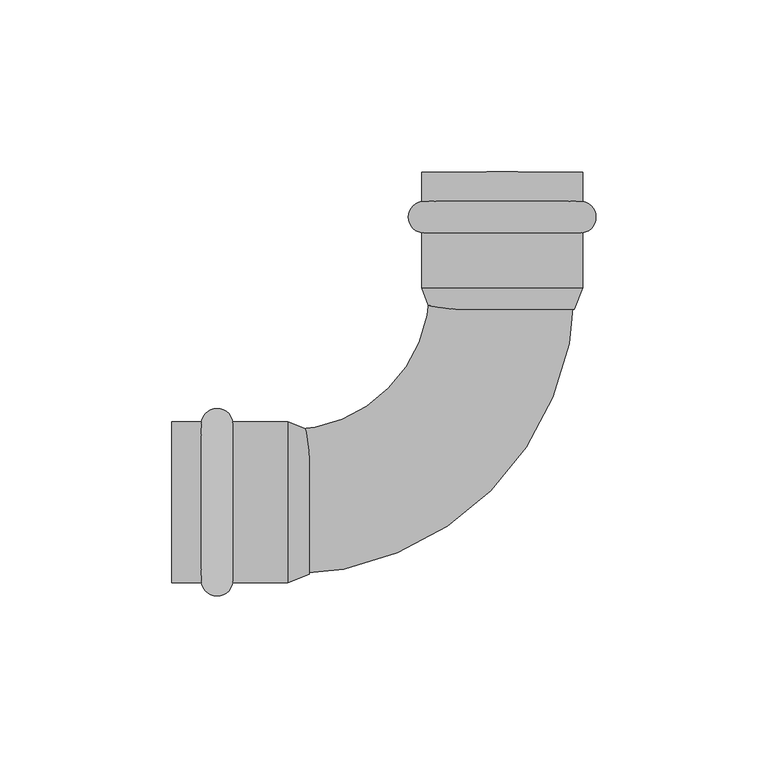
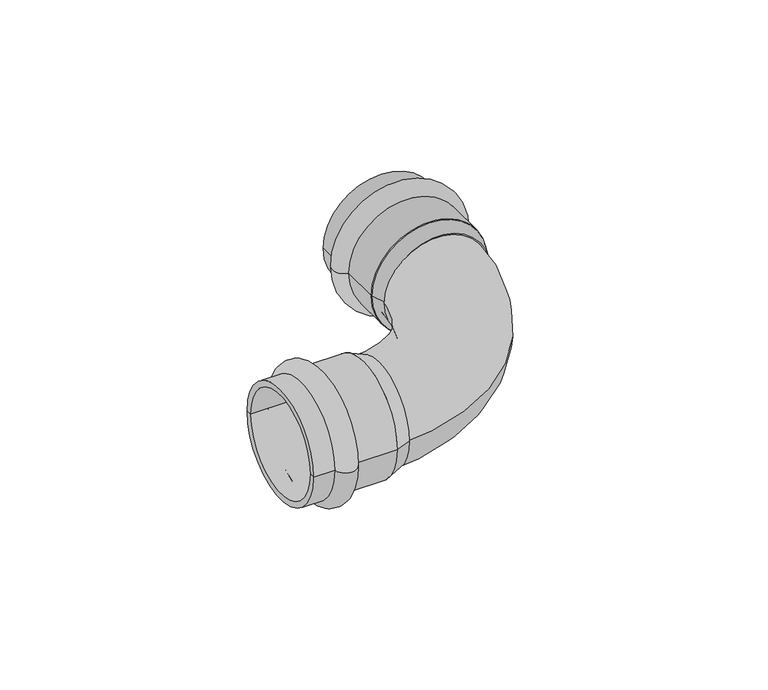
"""IFC4 building model written with IfcOpenShell, lengths in millimetres: pipe fitting geometry, VALTEC_VTi.951.I_Угольник 90° (раструб-раструб) нержавеющая сталь : VTi.951.I."""

import ifcopenshell
import ifcopenshell.guid

model = None  # the IFC model being written
_history = None  # IfcOwnerHistory: only IFC2X3 demands one
_inside = {}  # id of a spatial element -> (the spatial element, [elements in it])
_under = {}  # id of a project, library or spatial element -> (it, [spatial elements below it])
_declared = {}  # id of a project -> (the project, [libraries it declares])
_typed = {}  # id of a type object -> (the type object, [elements of that type])
_made_of = {}  # id of a material, layer set ... -> (it, [elements and type objects made of it])


def new_model(schema):
    """Start an empty IFC model of exactly this schema.

    Asked for "IFC4X3", IfcOpenShell would pick the latest addendum, in which some entities
    have other attributes; the version numbers below select the first issue.
    IFC2X3 requires an IfcOwnerHistory on every rooted entity: one is made here for all.
    """
    global model, _history
    if schema == "IFC4X3":
        model = ifcopenshell.file(schema_version=(4, 3, 0, 0))
    else:
        model = ifcopenshell.file(schema=schema)
    _inside.clear()
    _under.clear()
    _declared.clear()
    _typed.clear()
    _made_of.clear()
    _history = None
    if model.schema == "IFC2X3":
        org = make("IfcOrganization", Name="unknown")
        user = make(
            "IfcPersonAndOrganization",
            ThePerson=make("IfcPerson", FamilyName="unknown"),
            TheOrganization=org,
        )
        app = make(
            "IfcApplication",
            ApplicationDeveloper=org,
            Version="unknown",
            ApplicationFullName="unknown",
            ApplicationIdentifier="unknown",
        )
        _history = make(
            "IfcOwnerHistory",
            OwningUser=user,
            OwningApplication=app,
            ChangeAction="ADDED",
            CreationDate=0,
        )
    return model


def make(cls, **values):
    """One entity of the class cls with the attributes given. An attribute that is None is left unset."""
    return model.create_entity(
        cls, **{name: value for name, value in values.items() if value is not None}
    )


def rooted(cls, **values):
    """An entity with a GlobalId (a new one), such as an element, a storey or a relation."""
    return make(cls, GlobalId=ifcopenshell.guid.new(), OwnerHistory=_history, **values)


def si_unit(unit_type, name, prefix=None):
    """IfcSIUnit, for example si_unit("LENGTHUNIT", "METRE", prefix="MILLI")."""
    return make("IfcSIUnit", UnitType=unit_type, Prefix=prefix, Name=name)


def assignment(units):
    """IfcUnitAssignment: the units of a project."""
    return None if units is None else make("IfcUnitAssignment", Units=units)


def point(xyz):
    """IfcCartesianPoint."""
    return None if xyz is None else make("IfcCartesianPoint", Coordinates=xyz)


def direction(xyz):
    """IfcDirection."""
    return None if xyz is None else make("IfcDirection", DirectionRatios=xyz)


def frame(location, z_axis=None, x_axis=None):
    """IfcAxis2Placement3D, a coordinate frame: its origin and axes. An axis left out is left unset."""
    return make(
        "IfcAxis2Placement3D",
        Location=point(location),
        Axis=direction(z_axis),
        RefDirection=direction(x_axis),
    )


def origin():
    """The frame at (0, 0, 0) with its axes left unset."""
    return frame((0.0, 0.0, 0.0))


def place(relative_to, where):
    """IfcLocalPlacement: puts the frame where relative to a parent placement (None: the world)."""
    return make(
        "IfcLocalPlacement", PlacementRelTo=relative_to, RelativePlacement=where
    )


def context(
    kind, dimensions, precision=None, world=None, true_north=None, identifier=None
):
    """IfcGeometricRepresentationContext, for example the 3D "Model" context."""
    return make(
        "IfcGeometricRepresentationContext",
        ContextIdentifier=identifier,
        ContextType=kind,
        CoordinateSpaceDimension=dimensions,
        Precision=precision,
        WorldCoordinateSystem=world,
        TrueNorth=true_north,
    )


def project(units=None, contexts=None):
    """IfcProject with its units and contexts."""
    return rooted(
        "IfcProject",
        Name="project",
        RepresentationContexts=contexts,
        UnitsInContext=assignment(units),
    )


def spatial(cls, under=None, at=None, **own):
    """A site, building, storey or space (cls), placed at a placement, below another one or the project."""
    s = rooted(cls, ObjectPlacement=at, **own)
    if under is not None:
        _under.setdefault(under.id(), (under, []))[1].append(s)
    return s


def polyline(points):
    """IfcPolyline through the points."""
    return make("IfcPolyline", Points=[point(p) for p in points])


def circle_curve(where, radius):
    """IfcCircle in the frame where."""
    return make("IfcCircle", Position=where, Radius=radius)


def ellipse_curve(where, semi_axis1, semi_axis2):
    """IfcEllipse in the frame where."""
    return make(
        "IfcEllipse", Position=where, SemiAxis1=semi_axis1, SemiAxis2=semi_axis2
    )


def trimmed(basis, trim1, trim2, sense, master):
    """IfcTrimmedCurve: the piece of a basis curve between two trims."""
    return make(
        "IfcTrimmedCurve",
        BasisCurve=basis,
        Trim1=trim1,
        Trim2=trim2,
        SenseAgreement=sense,
        MasterRepresentation=master,
    )


def shape(context_of_items, identifier, shape_type, items):
    """IfcShapeRepresentation: the items that make up one representation, for example the "Body"."""
    return make(
        "IfcShapeRepresentation",
        ContextOfItems=context_of_items,
        RepresentationIdentifier=identifier,
        RepresentationType=shape_type,
        Items=items,
    )


def source(mapping_origin, context_of_items, identifier, shape_type, items):
    """IfcRepresentationMap: a shape defined once, which mapped items show again and again."""
    return make(
        "IfcRepresentationMap",
        MappingOrigin=mapping_origin,
        MappedRepresentation=shape(context_of_items, identifier, shape_type, items),
    )


def transform(
    local_origin,
    x_axis=None,
    y_axis=None,
    z_axis=None,
    scale=None,
    scale2=None,
    scale3=None,
    uniform=True,
):
    """IfcCartesianTransformationOperator3D, or its non-uniform kind. x_axis, y_axis, z_axis: its Axis1, 2, 3."""
    if uniform:
        return make(
            "IfcCartesianTransformationOperator3D",
            Axis1=direction(x_axis),
            Axis2=direction(y_axis),
            LocalOrigin=point(local_origin),
            Scale=scale,
            Axis3=direction(z_axis),
        )
    return make(
        "IfcCartesianTransformationOperator3DnonUniform",
        Axis1=direction(x_axis),
        Axis2=direction(y_axis),
        LocalOrigin=point(local_origin),
        Scale=scale,
        Axis3=direction(z_axis),
        Scale2=scale2,
        Scale3=scale3,
    )


def mapped(mapping_source, mapping_target):
    """IfcMappedItem: shows the shape of a source again, moved by a transform."""
    return make(
        "IfcMappedItem", MappingSource=mapping_source, MappingTarget=mapping_target
    )


def made_of(thing, what):
    """Note that an element or type object is made of a material, layer set ...; save() writes the relation."""
    if what is not None:
        _made_of.setdefault(what.id(), (what, []))[1].append(thing)
    return thing


def element(
    cls,
    number,
    at=None,
    inside=None,
    cuts=None,
    type_object=None,
    material=None,
    context=None,
    identifier="Body",
    shape_type=None,
    held_by="IfcProductDefinitionShape",
    body=None,
    shapes=None,
    **own,
):
    """One element of the class cls, such as IfcWall. Its Tag is "e" and its number.

    at: its placement. inside: the storey or other place that contains it. cuts: it is an
    opening in that element (IfcRelVoidsElement). A single representation is given by context,
    identifier, shape_type and body (its items); several are given by shapes. held_by: the class
    of the entity that holds the representations. save() writes the other relations.
    """
    e = rooted(cls, Tag="e%d" % number, ObjectPlacement=at, **own)
    if body is not None:
        shapes = [shape(context, identifier, shape_type, body)]
    if shapes is not None:
        e.Representation = make(held_by, Representations=shapes)
    if inside is not None:
        _inside.setdefault(inside.id(), (inside, []))[1].append(e)
    if cuts is not None:
        rooted(
            "IfcRelVoidsElement", RelatingBuildingElement=cuts, RelatedOpeningElement=e
        )
    if type_object is not None:
        _typed.setdefault(type_object.id(), (type_object, []))[1].append(e)
    return made_of(e, material)


def aggregate(whole, parts):
    """IfcRelAggregates: a whole, such as a stair, and the parts it consists of."""
    return rooted("IfcRelAggregates", RelatingObject=whole, RelatedObjects=parts)


def save(model, path):
    """Write the relations noted so far, then the file.

    IfcRelAggregates (storeys below a building ...), IfcRelContainedInSpatialStructure (elements
    in a storey), IfcRelDefinesByType, IfcRelAssociatesMaterial and IfcRelDeclares: one each for
    every whole, place, type object, material and project.
    """
    for whole, parts in _under.values():
        aggregate(whole, parts)
    for where, things in _inside.values():
        rooted(
            "IfcRelContainedInSpatialStructure",
            RelatedElements=things,
            RelatingStructure=where,
        )
    for kind, things in _typed.values():
        rooted("IfcRelDefinesByType", RelatedObjects=things, RelatingType=kind)
    for what, things in _made_of.values():
        rooted("IfcRelAssociatesMaterial", RelatedObjects=things, RelatingMaterial=what)
    for by, libraries in _declared.values():
        rooted("IfcRelDeclares", RelatingContext=by, RelatedDefinitions=libraries)
    model.write(path)


def plane_surface(at):
    """IfcPlane: the flat surface through the origin of the frame at, square to its z axis."""
    return make("IfcPlane", Position=at)


def cylinder_surface(at, radius):
    """IfcCylindricalSurface: all points at the distance radius from the z axis of the frame at."""
    return make("IfcCylindricalSurface", Position=at, Radius=radius)


def revolved_surface(curve, axis_point, axis_direction):
    """IfcSurfaceOfRevolution: the curve turned about the line through axis_point along axis_direction."""
    return make(
        "IfcSurfaceOfRevolution",
        SweptCurve=make("IfcArbitraryOpenProfileDef", ProfileType="CURVE", Curve=curve),
        AxisPosition=make("IfcAxis1Placement", Location=point(axis_point), Axis=direction(axis_direction)),
    )


def advanced_brep(points, edges, surfaces, faces):
    """IfcAdvancedBrep: a solid bounded by faces that lie on surfaces and meet in shared edges.

    An edge is (start, end): straight between two places in points (the first is 0);
    or (start, end, curve); or (start, end, curve, False) where it runs against its curve.
    A face is (place in surfaces, loops), or (place, loops, False) where it looks against
    its surface's normal. A loop lists edges by number (the first is 1), with a minus sign
    where the edge is run from its end to its start. The first loop is the outer one.
    """
    corners = [point(p) for p in points]
    vertices = [make("IfcVertexPoint", VertexGeometry=c) for c in corners]
    made = []
    for start, end, *more in edges:
        made.append(
            make(
                "IfcEdgeCurve",
                EdgeStart=vertices[start],
                EdgeEnd=vertices[end],
                EdgeGeometry=more[0] if more else make("IfcPolyline", Points=[corners[start], corners[end]]),
                SameSense=more[1] if len(more) > 1 else True,
            )
        )
    hull = []
    for where, loops, *sense in faces:
        bounds = []
        for j, loop in enumerate(loops):
            ring = [make("IfcOrientedEdge", EdgeElement=made[abs(k) - 1], Orientation=k > 0) for k in loop]
            bounds.append(
                make(
                    "IfcFaceOuterBound" if j == 0 else "IfcFaceBound",
                    Bound=make("IfcEdgeLoop", EdgeList=ring),
                    Orientation=True,
                )
            )
        hull.append(make("IfcAdvancedFace", Bounds=bounds, FaceSurface=surfaces[where], SameSense=sense[0] if sense else True))
    return make("IfcAdvancedBrep", Outer=make("IfcClosedShell", CfsFaces=hull))


def pipe_fitting_aa09dfc6(model_context):
    return source(origin(), model_context, "Body", "AdvancedBrep", [
        advanced_brep(
        [(-87.4464272, -23.35, 0.0), (-87.4464272, 23.35, 0.0), (-78.3535728, 23.35, 0.0), (-78.3535728, -23.35, 0.0), (-96.0, -23.35, 0.0), (-96.0, 23.35, 0.0), (-96.0, -21.0, 0.0), (-96.0, 21.0, 0.0), (-62.4, -21.0, 0.0), (-62.4, 21.0, 0.0), (-62.4, -23.35, 0.0), (-62.4, 23.35, 0.0)],
        [
            (0, 1, circle_curve(frame((-87.4464272, 0.0, 0.0), z_axis=(1.0, 0.0, 0.0), x_axis=(0.0, 1.0, 0.0)), 23.35)),
            (1, 2, circle_curve(frame((-82.9, 22.65, 0.0), z_axis=(0.0, 0.0, -1.0), x_axis=(1.0, 0.0, 0.0)), 4.6)),
            (2, 3, circle_curve(frame((-78.3535728, 0.0, 0.0), z_axis=(-1.0, 0.0, 0.0), x_axis=(0.0, 1.0, 0.0)), 23.35)),
            (3, 0, circle_curve(frame((-82.9, -22.65, 0.0), z_axis=(0.0, 0.0, -1.0), x_axis=(1.0, 0.0, 0.0)), 4.6)),
            (1, 0, circle_curve(frame((-87.4464272, 0.0, 0.0), z_axis=(1.0, 0.0, 0.0), x_axis=(0.0, 1.0, 0.0)), 23.35)),
            (3, 2, circle_curve(frame((-78.3535728, 0.0, 0.0), z_axis=(-1.0, 0.0, 0.0), x_axis=(0.0, 1.0, 0.0)), 23.35)),
            (4, 5, circle_curve(frame((-96.0, 0.0, 0.0), z_axis=(1.0, 0.0, 0.0), x_axis=(0.0, 1.0, 0.0)), 23.35)),
            (5, 1),
            (0, 4),
            (5, 4, circle_curve(frame((-96.0, 0.0, 0.0), z_axis=(1.0, 0.0, 0.0), x_axis=(0.0, 1.0, 0.0)), 23.35)),
            (6, 7, circle_curve(frame((-96.0, 0.0, 0.0), z_axis=(1.0, 0.0, 0.0), x_axis=(0.0, 1.0, 0.0)), 21.0)),
            (7, 5),
            (4, 6),
            (7, 6, circle_curve(frame((-96.0, 0.0, 0.0), z_axis=(1.0, 0.0, 0.0), x_axis=(0.0, 1.0, 0.0)), 21.0)),
            (8, 9, circle_curve(frame((-62.4, 0.0, 0.0), z_axis=(1.0, 0.0, 0.0), x_axis=(0.0, 1.0, 0.0)), 21.0)),
            (9, 7),
            (6, 8),
            (9, 8, circle_curve(frame((-62.4, 0.0, 0.0), z_axis=(1.0, 0.0, 0.0), x_axis=(0.0, 1.0, 0.0)), 21.0)),
            (10, 11, circle_curve(frame((-62.4, 0.0, 0.0), z_axis=(1.0, 0.0, 0.0), x_axis=(0.0, 1.0, 0.0)), 23.35)),
            (11, 9),
            (8, 10),
            (11, 10, circle_curve(frame((-62.4, 0.0, 0.0), z_axis=(1.0, 0.0, 0.0), x_axis=(0.0, 1.0, 0.0)), 23.35)),
            (2, 11),
            (10, 3),
        ],
        [
            revolved_surface(trimmed(ellipse_curve(frame((-82.9, 22.65, 0.0), z_axis=(0.0, 0.0, 1.0), x_axis=(1.0, 0.0, 0.0)), 4.6, 4.6), [point((-78.3535728, 23.35, 0.0))], [point((-87.4464272, 23.35, 0.0))], True, "CARTESIAN"), (-99.5364426, 0.0, 0.0), (-1.0, 0.0, 0.0)),
            cylinder_surface(frame((-99.5364426, 0.0, 0.0), z_axis=(-1.0, 0.0, 0.0), x_axis=(0.0, 1.0, 0.0)), 23.35),
            plane_surface(frame((-96.0, 0.0, 0.0), z_axis=(-1.0, 0.0, 0.0), x_axis=(0.0, 1.0, 0.0))),
            revolved_surface(polyline([(-96.0, 21.0, 0.0), (-62.4, 21.0, 0.0)]), (-99.5364426, 0.0, 0.0), (-1.0, 0.0, 0.0)),
            plane_surface(frame((-62.4, 0.0, 0.0), z_axis=(1.0, 0.0, 0.0), x_axis=(0.0, 1.0, 0.0))),
        ],
        [
            (0, [[1, 2, 3, 4]]),
            (0, [[5, -4, 6, -2]]),
            (1, [[7, 8, -1, 9]]),
            (1, [[10, -9, -5, -8]]),
            (2, [[11, 12, -7, 13]]),
            (2, [[14, -13, -10, -12]]),
            (3, [[15, 16, -11, 17]]),
            (3, [[18, -17, -14, -16]]),
            (4, [[19, 20, -15, 21]]),
            (4, [[22, -21, -18, -20]]),
            (1, [[-3, 23, -19, 24]]),
            (1, [[-6, -24, -22, -23]]),
        ],
    ),
        advanced_brep(
        [(-23.35, 87.4464272, 0.0), (23.35, 87.4464272, 0.0), (23.35, 78.3535728, 0.0), (-23.35, 78.3535728, 0.0), (-23.35, 96.0, 0.0), (23.35, 96.0, 0.0), (-21.0, 96.0, 0.0), (21.0, 96.0, 0.0), (-21.0, 62.4, 0.0), (21.0, 62.4, 0.0), (-23.35, 62.4, 0.0), (23.35, 62.4, 0.0)],
        [
            (0, 1, circle_curve(frame((0.0, 87.4464272, 0.0), z_axis=(0.0, -1.0, 0.0), x_axis=(1.0, 0.0, 0.0)), 23.35)),
            (1, 2, circle_curve(frame((22.65, 82.9, 0.0), z_axis=(0.0, 0.0, -1.0), x_axis=(0.0, -1.0, 0.0)), 4.6)),
            (2, 3, circle_curve(frame((0.0, 78.3535728, 0.0), z_axis=(0.0, 1.0, 0.0), x_axis=(1.0, 0.0, 0.0)), 23.35)),
            (3, 0, circle_curve(frame((-22.65, 82.9, 0.0), z_axis=(0.0, 0.0, -1.0), x_axis=(0.0, -1.0, 0.0)), 4.6)),
            (1, 0, circle_curve(frame((0.0, 87.4464272, 0.0), z_axis=(0.0, -1.0, 0.0), x_axis=(1.0, 0.0, 0.0)), 23.35)),
            (3, 2, circle_curve(frame((0.0, 78.3535728, 0.0), z_axis=(0.0, 1.0, 0.0), x_axis=(1.0, 0.0, 0.0)), 23.35)),
            (4, 5, circle_curve(frame((0.0, 96.0, 0.0), z_axis=(0.0, -1.0, 0.0), x_axis=(1.0, 0.0, 0.0)), 23.35)),
            (5, 1),
            (0, 4),
            (5, 4, circle_curve(frame((0.0, 96.0, 0.0), z_axis=(0.0, -1.0, 0.0), x_axis=(1.0, 0.0, 0.0)), 23.35)),
            (6, 7, circle_curve(frame((0.0, 96.0, 0.0), z_axis=(0.0, -1.0, 0.0), x_axis=(1.0, 0.0, 0.0)), 21.0)),
            (7, 5),
            (4, 6),
            (7, 6, circle_curve(frame((0.0, 96.0, 0.0), z_axis=(0.0, -1.0, 0.0), x_axis=(1.0, 0.0, 0.0)), 21.0)),
            (8, 9, circle_curve(frame((0.0, 62.4, 0.0), z_axis=(0.0, -1.0, 0.0), x_axis=(1.0, 0.0, 0.0)), 21.0)),
            (9, 7),
            (6, 8),
            (9, 8, circle_curve(frame((0.0, 62.4, 0.0), z_axis=(0.0, -1.0, 0.0), x_axis=(1.0, 0.0, 0.0)), 21.0)),
            (10, 11, circle_curve(frame((0.0, 62.4, 0.0), z_axis=(0.0, -1.0, 0.0), x_axis=(1.0, 0.0, 0.0)), 23.35)),
            (11, 9),
            (8, 10),
            (11, 10, circle_curve(frame((0.0, 62.4, 0.0), z_axis=(0.0, -1.0, 0.0), x_axis=(1.0, 0.0, 0.0)), 23.35)),
            (2, 11),
            (10, 3),
        ],
        [
            revolved_surface(trimmed(ellipse_curve(frame((22.65, 82.9, 0.0), z_axis=(0.0, 0.0, 1.0), x_axis=(0.0, -1.0, 0.0)), 4.6, 4.6), [point((23.35, 78.3535728, 0.0))], [point((23.35, 87.4464272, 0.0))], True, "CARTESIAN"), (0.0, 99.5364426, 0.0), (0.0, 1.0, 0.0)),
            cylinder_surface(frame((0.0, 99.5364426, 0.0), z_axis=(0.0, 1.0, 0.0), x_axis=(1.0, 0.0, 0.0)), 23.35),
            plane_surface(frame((0.0, 96.0, 0.0), z_axis=(0.0, 1.0, 0.0), x_axis=(1.0, 0.0, 0.0))),
            revolved_surface(polyline([(21.0, 96.0, 0.0), (21.0, 62.4, 0.0)]), (0.0, 99.5364426, 0.0), (0.0, 1.0, 0.0)),
            plane_surface(frame((0.0, 62.4, 0.0), z_axis=(0.0, -1.0, 0.0), x_axis=(1.0, 0.0, 0.0))),
        ],
        [
            (0, [[1, 2, 3, 4]]),
            (0, [[5, -4, 6, -2]]),
            (1, [[7, 8, -1, 9]]),
            (1, [[10, -9, -5, -8]]),
            (2, [[11, 12, -7, 13]]),
            (2, [[14, -13, -10, -12]]),
            (3, [[15, 16, -11, 17]]),
            (3, [[18, -17, -14, -16]]),
            (4, [[19, 20, -15, 21]]),
            (4, [[22, -21, -18, -20]]),
            (1, [[-3, 23, -19, 24]]),
            (1, [[-6, -24, -22, -23]]),
        ],
    ),
        advanced_brep(
        [(-62.4, -23.35, 0.0), (-62.4, 23.35, 0.0), (-56.16, -21.0, 0.0), (-56.16, 21.0, 0.0)],
        [
            (0, 1, circle_curve(frame((-62.4, 0.0, 0.0), z_axis=(-1.0, 0.0, 0.0), x_axis=(0.0, -1.0, 0.0)), 23.35)),
            (1, 0, circle_curve(frame((-62.4, 0.0, 0.0), z_axis=(-1.0, 0.0, 0.0), x_axis=(0.0, 1.0, 0.0)), 23.35)),
            (2, 3, circle_curve(frame((-56.16, 0.0, 0.0), z_axis=(1.0, 0.0, 0.0), x_axis=(0.0, 1.0, 0.0)), 21.0)),
            (3, 2, circle_curve(frame((-56.16, 0.0, 0.0), z_axis=(1.0, 0.0, 0.0), x_axis=(0.0, -1.0, 0.0)), 21.0)),
            (2, 0),
            (1, 3),
        ],
        [
            plane_surface(frame((-62.4, 0.0, 0.0), z_axis=(-1.0, 0.0, 0.0), x_axis=(0.0, 0.0, -1.0))),
            plane_surface(frame((-56.16, 0.0, 0.0), z_axis=(1.0, 0.0, 0.0), x_axis=(0.0, 0.0, -1.0))),
            revolved_surface(polyline([(-56.16, -20.99999999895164, 0.0), (-62.4, -23.35, 0.0)]), (-0.3982979, 0.0, 0.0), (-1.0, 0.0, 0.0)),
            revolved_surface(polyline([(-56.16, 20.99999999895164, 0.0), (-62.4, 23.35, 0.0)]), (-0.3982979, 0.0, 0.0), (-1.0, 0.0, 0.0)),
        ],
        [
            (0, [[1, 2]]),
            (1, [[3, 4]]),
            (2, [[-3, 5, -2, 6]]),
            (3, [[-4, -6, -1, -5]]),
        ],
    ),
        advanced_brep(
        [(-23.35, 62.4, 0.0), (23.35, 62.4, 0.0), (-21.0, 56.16, 0.0), (21.0, 56.16, 0.0)],
        [
            (0, 1, circle_curve(frame((0.0, 62.4, 0.0), z_axis=(0.0, 1.0, 0.0), x_axis=(-1.0, 0.0, 0.0)), 23.35)),
            (1, 0, circle_curve(frame((0.0, 62.4, 0.0), z_axis=(0.0, 1.0, 0.0), x_axis=(1.0, 0.0, 0.0)), 23.35)),
            (2, 3, circle_curve(frame((0.0, 56.16, 0.0), z_axis=(0.0, -1.0, 0.0), x_axis=(1.0, 0.0, 0.0)), 21.0)),
            (3, 2, circle_curve(frame((0.0, 56.16, 0.0), z_axis=(0.0, -1.0, 0.0), x_axis=(-1.0, 0.0, 0.0)), 21.0)),
            (2, 0),
            (1, 3),
        ],
        [
            plane_surface(frame((0.0, 62.4, 0.0), z_axis=(0.0, 1.0, 0.0), x_axis=(0.0, 0.0, -1.0))),
            plane_surface(frame((0.0, 56.16, 0.0), z_axis=(0.0, -1.0, 0.0), x_axis=(0.0, 0.0, -1.0))),
            revolved_surface(polyline([(-20.99999999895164, 56.16, 0.0), (-23.35, 62.4, 0.0)]), (0.0, 0.3982979, 0.0), (0.0, 1.0, 0.0)),
            revolved_surface(polyline([(20.99999999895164, 56.16, 0.0), (23.35, 62.4, 0.0)]), (0.0, 0.3982979, 0.0), (0.0, 1.0, 0.0)),
        ],
        [
            (0, [[1, 2]]),
            (1, [[3, 4]]),
            (2, [[-3, 5, -2, 6]]),
            (3, [[-4, -6, -1, -5]]),
        ],
    ),
        advanced_brep(
        [(-62.4, -21.0551605, 0.0), (-62.4, 20.9448395, 0.0), (21.0551605, 62.4, 0.0), (-20.9448395, 62.4, 0.0)],
        [
            (0, 1, circle_curve(frame((-62.4, -0.0551605, 0.0), z_axis=(-1.0, 0.0, 0.0), x_axis=(0.0, 1.0, 0.0)), 21.0)),
            (1, 0, circle_curve(frame((-62.4, -0.0551605, 0.0), z_axis=(-1.0, 0.0, 0.0), x_axis=(0.0, 1.0, 0.0)), 21.0)),
            (2, 3, circle_curve(frame((0.0551605, 62.4, 0.0), z_axis=(0.0, 1.0, 0.0), x_axis=(-1.0, 0.0, 0.0)), 21.0)),
            (3, 2, circle_curve(frame((0.0551605, 62.4, 0.0), z_axis=(0.0, 1.0, 0.0), x_axis=(-1.0, 0.0, 0.0)), 21.0)),
            (3, 1, circle_curve(frame((-62.4, 62.4, 0.0), z_axis=(0.0, 0.0, -1.0), x_axis=(0.0, -1.0, 0.0)), 41.4551605)),
            (0, 2, circle_curve(frame((-62.4, 62.4, 0.0), z_axis=(0.0, 0.0, 1.0), x_axis=(0.0, -1.0, 0.0)), 83.4551605)),
        ],
        [
            plane_surface(frame((-62.4, 0.0, 0.0), z_axis=(-1.0, 0.0, 0.0), x_axis=(0.0, 0.0, 1.0))),
            plane_surface(frame((0.0, 62.4, 0.0), z_axis=(0.0, 1.0, 0.0), x_axis=(0.0, 0.0, 1.0))),
            revolved_surface(trimmed(ellipse_curve(frame((-62.4, -0.0551605, 0.0), z_axis=(-1.0, 0.0, 0.0), x_axis=(0.0, 1.0, 0.0)), 21.0, 21.0), [point((-62.4, -21.0551605, 0.0))], [point((-62.4, 20.9448395, 0.0))], True, "CARTESIAN"), (-62.4, 62.4, 0.0), (0.0, 0.0, 1.0)),
            revolved_surface(trimmed(ellipse_curve(frame((-62.4, -0.0551605, 0.0), z_axis=(-1.0, 0.0, 0.0), x_axis=(0.0, 1.0, 0.0)), 21.0, 21.0), [point((-62.4, 20.9448395, 0.0))], [point((-62.4, -21.0551605, 0.0))], True, "CARTESIAN"), (-62.4, 62.4, 0.0), (0.0, 0.0, 1.0)),
        ],
        [
            (0, [[1, 2]]),
            (1, [[3, 4]]),
            (2, [[5, -1, 6, -4]]),
            (3, [[-6, -2, -5, -3]]),
        ],
    ),
    ])


if __name__ == "__main__":
    model = new_model("IFC4")
    model_context = context("Model", 3, world=origin())
    ifc_project = project(units=[si_unit("LENGTHUNIT", "METRE", prefix="MILLI")], contexts=[model_context])
    site = spatial("IfcSite", under=ifc_project)
    building = spatial("IfcBuilding", under=site)
    placement = place(None, origin())
    pipe_fitting_shape = pipe_fitting_aa09dfc6(model_context)
    element("IfcPipeFitting", 1, ObjectType="VALTEC_VTi.951.I_Угольник 90° (раструб-раструб) нержавеющая сталь : VTi.951.I", at=placement, inside=building, context=model_context, shape_type="MappedRepresentation", body=[
        mapped(pipe_fitting_shape, transform((0.0, 0.0, 0.0), x_axis=(1.0, 0.0, 0.0), y_axis=(0.0, 1.0, 0.0), z_axis=(0.0, 0.0, 1.0))),
    ])
    save(model, "model.ifc")
